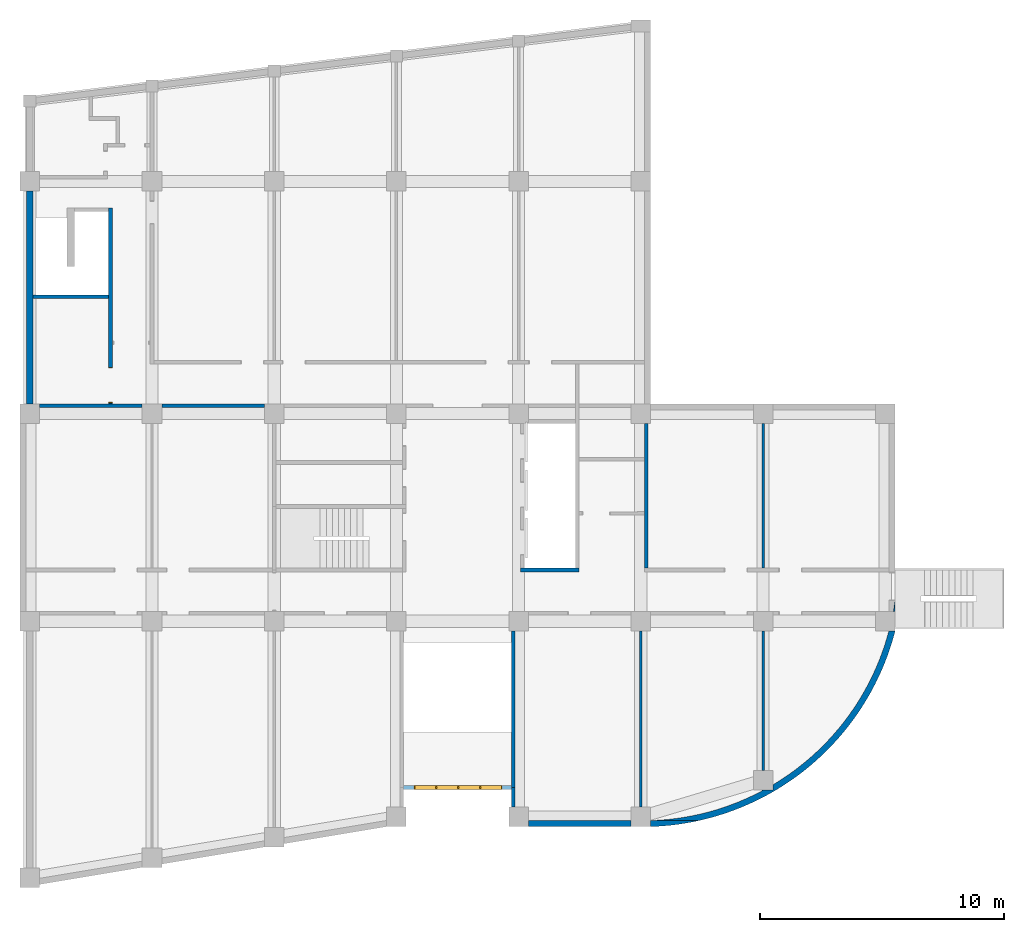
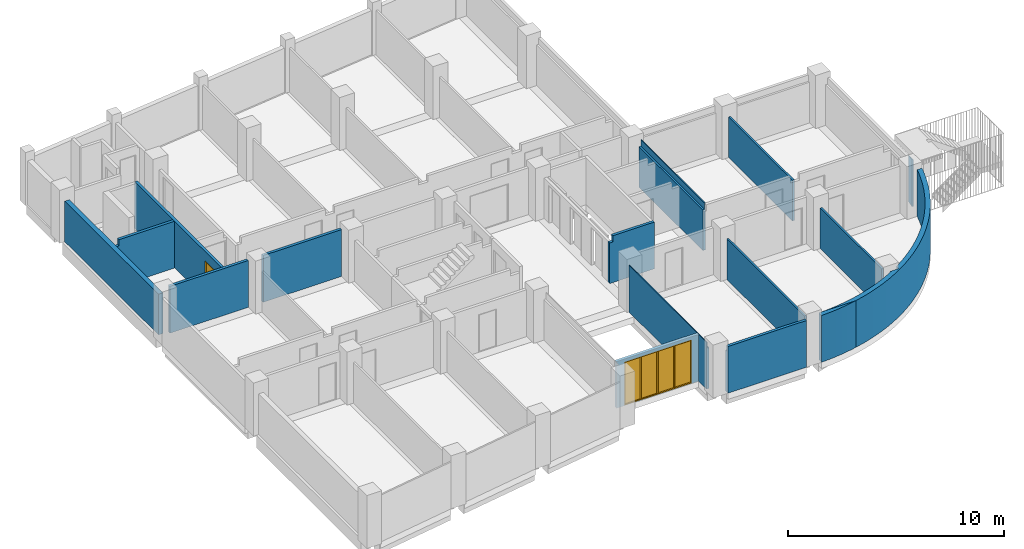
# One storey, part 5 of 7: 14 walls, 1 door, 1 window, 2 openings, plus 1 element that does not belong to this part.
"""IFC2X3 building model written with IfcOpenShell, lengths in millimetres."""

from ifc_helpers import new_model, entity, si_unit, converted_unit, derived_unit, money_unit, direction, frame, origin_with_axes, place, context, subcontext, project, spatial, open_shell, faceted_brep, surface_model, material, type_object, element, fill, save


model = new_model("IFC2X3")

# Units and contexts
model_context = context("Model", 3, precision=0.01, world=origin_with_axes(), true_north=direction((0.0, 1.0)))
body_context = subcontext(model_context, "Body", "Model", "MODEL_VIEW")
ifc_project = project(units=[si_unit("LENGTHUNIT", "METRE", prefix="MILLI"), si_unit("AREAUNIT", "SQUARE_METRE"), si_unit("VOLUMEUNIT", "CUBIC_METRE"), converted_unit("PLANEANGLEUNIT", "DEGREE", entity("IfcPlaneAngleMeasure", 0.0174532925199), si_unit("PLANEANGLEUNIT", "RADIAN"), dimensions=[0, 0, 0, 0, 0, 0, 0]), si_unit("SOLIDANGLEUNIT", "STERADIAN"), money_unit("JPY"), converted_unit("TIMEUNIT", "Year", entity("IfcTimeMeasure", 31556926.0), si_unit("TIMEUNIT", "SECOND"), dimensions=[0, 0, 1, 0, 0, 0, 0]), si_unit("MASSUNIT", "GRAM", prefix="KILO"), si_unit("THERMODYNAMICTEMPERATUREUNIT", "DEGREE_CELSIUS"), si_unit("LUMINOUSINTENSITYUNIT", "LUMEN"), si_unit("ENERGYUNIT", "JOULE", prefix="MEGA"), derived_unit("THERMALCONDUCTANCEUNIT", [(si_unit("POWERUNIT", "WATT"), 1), (si_unit("LENGTHUNIT", "METRE"), -1), (si_unit("THERMODYNAMICTEMPERATUREUNIT", "KELVIN"), -1)]), derived_unit("SPECIFICHEATCAPACITYUNIT", [(si_unit("ENERGYUNIT", "JOULE"), 1), (si_unit("MASSUNIT", "GRAM", prefix="KILO"), -1), (si_unit("THERMODYNAMICTEMPERATUREUNIT", "KELVIN"), -1)]), derived_unit("MASSDENSITYUNIT", [(si_unit("MASSUNIT", "GRAM", prefix="KILO"), 1), (si_unit("VOLUMEUNIT", "CUBIC_METRE"), -1)])], contexts=[model_context])

# Site, building, storey
site_placement = place(None, origin_with_axes())
site = spatial("IfcSite", under=ifc_project, at=site_placement, Name="サイト", CompositionType="ELEMENT")
building_placement = place(site_placement, origin_with_axes())
building = spatial("IfcBuilding", under=site, at=building_placement, Name="建築", CompositionType="ELEMENT")
storey_placement = place(building_placement, frame((0.0, 0.0, 3000.0), z_axis=(0.0, 0.0, 1.0), x_axis=(1.0, 0.0, 0.0)))
storey = spatial("IfcBuildingStorey", under=building, at=storey_placement, Name="2FL", CompositionType="ELEMENT", Elevation=3000.0)

# Walls
ifc_material_1 = material(Name="コンクリート")
wall_type_1 = type_object("IfcWallType", Name="コンクリート 150", PredefinedType="NOTDEFINED")
wall_1_placement = place(storey_placement, frame((19775.0000519, -6800.0, 0.0), z_axis=(0.0, 0.0, 1.0), x_axis=(0.0, -1.0, 0.0)))
element("IfcWall", 1, at=wall_1_placement, inside=storey, type_object=wall_type_1, material=ifc_material_1, Name="W5", context=body_context, shape_type="Brep", body=[
    faceted_brep([(0.0, -25.0000519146, 2300.0), (800.0, -25.0000519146, 2300.0), (800.0, 75.0, 2300.0), (0.0, 75.0, 2300.0), (0.0, -25.0000519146, 2650.0), (800.0, -25.0000519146, 2650.0), (800.0, -75.0, 0.0), (800.0, 75.0, 0.0), (800.0, -75.0, 2650.0), (0.0, 75.0, 0.0), (0.0, -75.0, 0.0), (0.0, -75.0, 2650.0)], [[[0, 1, 2, 3]], [[4, 5, 1, 0]], [[6, 7, 2, 1, 5, 8]], [[3, 2, 7, 9]], [[10, 11, 4, 0, 3, 9]], [[11, 8, 5, 4]], [[9, 7, 6, 10]], [[10, 6, 8, 11]]]),
])
wall_2_placement = place(storey_placement, frame((3300.0, 13282.5237799, 0.0), z_axis=(0.0, 0.0, 1.0), x_axis=(-1.0, 0.0, 0.0)))
element("IfcWall", 2, at=wall_2_placement, inside=storey, type_object=wall_type_1, material=ifc_material_1, Name="W9", context=body_context, shape_type="Brep", body=[
    faceted_brep([(3175.0, -75.0, 0.0), (3175.0, -75.0, 2300.0), (3050.0, -75.0, 2300.0), (3050.0, -75.0, 2650.0), (75.0, -75.0, 2650.0), (75.0, -75.0, 0.0), (3175.0, 75.0, 0.0), (3175.0, 75.0, 2300.0), (3050.0, 75.0, 2300.0), (3050.0, 75.0, 2650.0), (75.0, 75.0, 2650.0), (75.0, 75.0, 0.0)], [[[0, 1, 2, 3, 4, 5]], [[6, 7, 1, 0]], [[8, 2, 1, 7]], [[8, 9, 3, 2]], [[4, 3, 9, 10]], [[11, 5, 4, 10]], [[5, 11, 6, 0]], [[9, 8, 7, 6, 11, 10]]]),
])
wall_3_placement = place(storey_placement, frame((20150.0, 2100.0, 0.0), z_axis=(0.0, 0.0, 1.0), x_axis=(1.0, 0.0, 0.0)))
element("IfcWall", 3, at=wall_3_placement, inside=storey, type_object=wall_type_1, material=ifc_material_1, Name="W7", context=body_context, shape_type="Brep", body=[
    faceted_brep([(-75.0, 75.0, 0.0), (-75.0, 75.0, 2300.0), (100.0, 74.9999973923, 2300.0), (100.0, 75.0, 2650.0), (2325.0, 75.0, 2650.0), (2325.0, 75.0, 0.0), (-75.0, -75.0, 0.0), (-75.0, -75.0, 2300.0), (100.0, -75.0, 2300.0), (100.0, -75.0, 2650.0), (2325.0, -75.0, 2650.0), (2325.0, -75.0, 0.0)], [[[0, 1, 2, 3, 4, 5]], [[6, 7, 1, 0]], [[8, 2, 1, 7]], [[8, 9, 3, 2]], [[4, 3, 9, 10]], [[11, 5, 4, 10]], [[6, 0, 5, 11]], [[9, 8, 7, 6, 11, 10]]]),
])
wall_4_placement = place(storey_placement, frame((25224.9999795, 2100.0, 0.0), z_axis=(0.0, 0.0, 1.0), x_axis=(0.0, 1.0, 0.0)))
element("IfcWall", 4, at=wall_4_placement, inside=storey, type_object=wall_type_1, material=ifc_material_1, Name="W5", context=body_context, shape_type="Brep", body=[
    faceted_brep([(75.0, -75.0, 0.0), (6000.0, -75.0, 0.0), (6000.0, -75.0, 2650.0), (75.0, -75.0, 2650.0), (75.0, 75.0, 0.0), (6000.0, 75.0, 0.0), (6000.0, -25.0000205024, 2300.0), (6000.0, -25.0000205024, 2650.0), (6000.0, 75.0, 2300.0), (75.0, -25.0000205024, 2650.0), (75.0, -25.0000205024, 2300.0), (75.0, 75.0, 2300.0)], [[[0, 1, 2, 3]], [[4, 5, 1, 0]], [[6, 7, 2, 1, 5, 8]], [[3, 2, 7, 9]], [[3, 9, 10, 11, 4, 0]], [[11, 8, 5, 4]], [[9, 7, 6, 10]], [[10, 6, 8, 11]]]),
])
wall_5_placement = place(storey_placement, frame((19775.0000519, 325.000021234, 0.0), z_axis=(0.0, 0.0, 1.0), x_axis=(0.0, -1.0, 0.0)))
element("IfcWall", 5, at=wall_5_placement, inside=storey, type_object=wall_type_1, material=ifc_material_1, Name="W5", context=body_context, shape_type="Brep", body=[
    faceted_brep([(7125.00002123, 75.0, 0.0), (725.000021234, 75.0, 0.0), (725.000021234, 75.0, 2300.0), (7125.00002123, 75.0, 2300.0), (7125.00002123, -75.0, 0.0), (725.000021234, -75.0, 0.0), (725.000021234, -25.0000519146, 2650.0), (725.000021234, -25.0000519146, 2300.0), (725.000021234, -75.0, 2650.0), (7125.00002123, -25.0000519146, 2300.0), (7125.00002123, -25.0000519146, 2650.0), (7125.00002123, -75.0, 2650.0)], [[[0, 1, 2, 3]], [[4, 5, 1, 0]], [[6, 7, 2, 1, 5, 8]], [[3, 2, 7, 9]], [[0, 3, 9, 10, 11, 4]], [[11, 8, 5, 4]], [[9, 7, 6, 10]], [[10, 6, 8, 11]]]),
])

# Wall, opening, door
wall_6_placement = place(storey_placement, frame((3300.0, 8825.000045, 0.0), z_axis=(0.0, 0.0, 1.0), x_axis=(0.0, 1.0, 0.0)))
wall_6 = element("IfcWall", 6, at=wall_6_placement, inside=storey, type_object=wall_type_1, material=ifc_material_1, Name="W9", context=body_context, shape_type="Brep", body=[
    faceted_brep([(110.0, -75.0, 0.0), (110.0, -75.0, 2130.0), (1570.0, -75.0, 2130.0), (1570.0, -75.0, 0.0), (8082.52373485, -75.0, 0.0), (8082.52373485, -75.0, 2650.0), (75.0, -75.0, 2650.0), (75.0, -75.0, 0.0), (110.0, 75.0, 0.0), (110.0, 75.0, 2130.0), (1570.0, 75.0, 2130.0), (1570.0, 75.0, 0.0), (8082.52373485, 75.0, 0.0), (8082.52373485, 75.0, 2650.0), (75.0, 75.0, 2650.0), (75.0, 75.0, 0.0)], [[[0, 1, 2, 3, 4, 5, 6, 7]], [[1, 0, 8, 9]], [[2, 1, 9, 10]], [[3, 2, 10, 11]], [[3, 11, 12, 4]], [[13, 5, 4, 12]], [[6, 5, 13, 14]], [[6, 14, 15, 7]], [[8, 0, 7, 15]], [[9, 8, 15, 14, 13, 12, 11, 10]]]),
])
opening_1_placement = place(wall_6_placement, frame((840.0, 0.0, 0.0), z_axis=(0.0, 0.0, 1.0), x_axis=(1.0, 0.0, 0.0)))
opening_1 = element("IfcOpeningElement", 7, at=opening_1_placement, cuts=wall_6, Name="SD4", context=body_context, shape_type="Brep", body=[
    faceted_brep([(-730.0, -160.0, 0.0), (-730.0, -160.0, 2130.0), (-730.0, 160.0, 2130.0), (-730.0, 160.0, 0.0), (730.0, -160.0, 0.0), (730.0, -160.0, 2130.0), (730.0, 160.0, 2130.0), (730.0, 160.0, 0.0)], [[[0, 1, 2, 3]], [[0, 4, 5, 1]], [[1, 5, 6, 2]], [[3, 2, 6, 7]], [[4, 0, 3, 7]], [[5, 4, 7, 6]]]),
])
door_style = type_object("IfcDoorStyle", Name="両開き戸", ConstructionType="NOTDEFINED", OperationType="NOTDEFINED", ParameterTakesPrecedence=False, Sizeable=False)
door_placement = place(opening_1_placement, frame((-700.0, 0.0, 0.0), z_axis=(0.0, 0.0, 1.0), x_axis=(1.0, 0.0, 0.0)))
door = element("IfcDoor", 8, at=door_placement, inside=storey, type_object=door_style, Name="SD4", OverallHeight=2165.0, OverallWidth=1530.0, context=body_context, shape_type="SurfaceModel", body=[
    surface_model("IfcShellBasedSurfaceModel", [(700.0, 0.0, 0.0), (700.0, 0.0, 2100.0), (1400.0, 0.0, 2100.0), (1400.0, 0.0, 0.0)], [open_shell([[[0, 1, 2, 3]]])]),
    surface_model("IfcShellBasedSurfaceModel", [(700.0, 0.0, 0.0), (0.0, 0.0, 0.0), (0.0, 0.0, 2100.0), (700.0, 0.0, 2100.0)], [open_shell([[[0, 1, 2, 3]]])]),
    surface_model("IfcShellBasedSurfaceModel", [(-30.0, 75.0, 0.0), (-30.0, 75.0, 2130.0), (1430.0, 75.0, 2130.0), (1430.0, 75.0, 0.0), (1400.0, 75.0, 0.0), (1400.0, 75.0, 2100.0), (0.0, 75.0, 2100.0), (0.0, 75.0, 0.0)], [open_shell([[[0, 1, 2, 3, 4, 5, 6, 7]]])]),
    surface_model("IfcShellBasedSurfaceModel", [(-30.0, -75.0, 0.0), (-30.0, -75.0, 2130.0), (1430.0, -75.0, 2130.0), (1430.0, -75.0, 0.0), (1400.0, -75.0, 0.0), (1400.0, -75.0, 2100.0), (0.0, -75.0, 2100.0), (0.0, -75.0, 0.0)], [open_shell([[[0, 1, 2, 3, 4, 5, 6, 7]]])]),
    surface_model("IfcShellBasedSurfaceModel", [(0.0, 75.0, 0.0), (0.0, 75.0, 2100.0), (0.0, -75.0, 2100.0), (0.0, -75.0, 0.0), (1400.0, 75.0, 2100.0), (1400.0, -75.0, 2100.0), (-30.0, 75.0, 0.0), (-30.0, -75.0, 0.0), (1400.0, 75.0, 0.0), (1400.0, -75.0, 0.0), (-30.0, 75.0, 2130.0), (-30.0, -75.0, 2130.0), (1430.0, 75.0, 0.0), (1430.0, -75.0, 0.0), (1430.0, 75.0, 2130.0), (1430.0, -75.0, 2130.0)], [open_shell([[[0, 1, 2, 3]], [[1, 4, 5, 2]], [[6, 0, 3, 7]], [[4, 8, 9, 5]], [[10, 6, 7, 11]], [[8, 12, 13, 9]], [[14, 10, 11, 15]], [[12, 14, 15, 13]]])]),
])
fill(opening_1, door)

# Walls
for number, where, z_axis, x_axis, name in (
    (9, (10000.0, 8825.000045, 0.0), (0.0, 0.0, 1.0), (-1.0, 0.0, 0.0), "W9"),
    (10, (5000.0, 8825.000045, 0.0), (0.0, 0.0, 1.0), (-1.0, 0.0, 0.0), "W0"),
):
    element("IfcWall", number, at=place(storey_placement, frame(where, z_axis=z_axis, x_axis=x_axis)), inside=storey, type_object=wall_type_1, material=ifc_material_1, Name=name, context=body_context, shape_type="Brep", body=[
        faceted_brep([(4600.0, 75.0, 2650.0), (400.0, 75.0, 2650.0), (400.0, -74.999955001, 2650.0), (4600.0, -74.999955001, 2650.0), (4600.0, 75.0, 0.0), (400.0, 75.0, 0.0), (400.0, -74.999955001, 0.0), (4600.0, -74.999955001, 0.0)], [[[0, 1, 2, 3]], [[4, 5, 1, 0]], [[5, 6, 2, 1]], [[3, 2, 6, 7]], [[4, 0, 3, 7]], [[7, 6, 5, 4]]]),
    ])

# Wall, opening, window
wall_7_placement = place(storey_placement, frame((19775.0000519, -6800.0, 0.0), z_axis=(0.0, 0.0, 1.0), x_axis=(-1.0, 0.0, 0.0)))
wall_7 = element("IfcWall", 11, at=wall_7_placement, inside=storey, type_object=wall_type_1, material=ifc_material_1, Name="W6", context=body_context, shape_type="Brep", body=[
    faceted_brep([(75.0, 75.0, 0.0), (75.0, 75.0, 2650.0), (4475.0001044, 75.0, 2650.0), (4475.0001044, 75.0, 0.0), (4045.0000522, 75.0, 20.0), (4045.0000522, 75.0, 2480.0), (445.0000522, 75.0, 2480.0), (445.0000522, 75.0, 20.0), (75.0, 0.0, 0.0), (75.0, 0.0, 2650.0), (75.0, -75.0, 2650.0), (4475.0001044, -75.0, 2650.0), (4475.0001044, 0.0, 2650.0), (4475.0001044, 0.0, 0.0), (4475.0001044, -75.0, 0.0), (75.0, -75.0, 0.0), (4045.0000522, -75.0, 20.0), (4045.0000522, -75.0, 2480.0), (445.0000522, -75.0, 2480.0), (445.0000522, -75.0, 20.0)], [[[0, 1, 2, 3], [4, 5, 6, 7]], [[8, 9, 1, 0]], [[10, 11, 12, 2, 1, 9]], [[3, 2, 12, 13]], [[8, 0, 3, 13, 14, 15]], [[16, 17, 5, 4]], [[17, 18, 6, 5]], [[18, 19, 7, 6]], [[19, 16, 4, 7]], [[15, 10, 9, 8]], [[14, 11, 10, 15], [16, 19, 18, 17]], [[13, 12, 11, 14]]]),
])
opening_2_placement = place(wall_7_placement, frame((2245.0000522, 0.0, 50.0), z_axis=(0.0, 0.0, 1.0), x_axis=(1.0, 0.0, 0.0)))
opening_2 = element("IfcOpeningElement", 12, at=opening_2_placement, cuts=wall_7, Name="AW1", context=body_context, shape_type="Brep", body=[
    faceted_brep([(-1800.0, -195.0, -30.0), (-1800.0, -195.0, 2430.0), (-1800.0, 195.0, 2430.0), (-1800.0, 195.0, -30.0), (1800.0, -195.0, -30.0), (1800.0, -195.0, 2430.0), (1800.0, 195.0, 2430.0), (1800.0, 195.0, -30.0)], [[[0, 1, 2, 3]], [[0, 4, 5, 1]], [[1, 5, 6, 2]], [[3, 2, 6, 7]], [[4, 0, 3, 7]], [[5, 4, 7, 6]]]),
])
window_style = type_object("IfcWindowStyle", Name="連装窓1", ConstructionType="NOTDEFINED", OperationType="NOTDEFINED", ParameterTakesPrecedence=False, Sizeable=False)
window_placement = place(opening_2_placement, frame((-1770.0, 0.0, 0.0), z_axis=(0.0, 0.0, 1.0), x_axis=(1.0, 0.0, 0.0)))
window = element("IfcWindow", 13, at=window_placement, inside=storey, type_object=window_style, Name="AW1", OverallHeight=2550.0, OverallWidth=3660.0, context=body_context, shape_type="SurfaceModel", body=[
    surface_model("IfcShellBasedSurfaceModel", [(0.0, 0.0, 0.0), (0.0, 0.0, 2400.0), (832.5, 0.0, 2400.0), (832.5, 0.0, 0.0)], [open_shell([[[0, 1, 2, 3]]])]),
    surface_model("IfcShellBasedSurfaceModel", [(902.5, 0.0, 0.0), (902.5, 0.0, 2400.0), (1735.0, 0.0, 2400.0), (1735.0, 0.0, 0.0)], [open_shell([[[0, 1, 2, 3]]])]),
    surface_model("IfcShellBasedSurfaceModel", [(1805.0, 0.0, 0.0), (1805.0, 0.0, 2400.0), (2637.5, 0.0, 2400.0), (2637.5, 0.0, 0.0)], [open_shell([[[0, 1, 2, 3]]])]),
    surface_model("IfcShellBasedSurfaceModel", [(2707.5, 0.0, 0.0), (2707.5, 0.0, 2400.0), (3540.0, 0.0, 2400.0), (3540.0, 0.0, 0.0)], [open_shell([[[0, 1, 2, 3]]])]),
    faceted_brep([(832.5, -35.0, 0.0), (902.5, -35.0, 0.0), (902.5, -35.0, 2400.0), (832.5, -35.0, 2400.0), (832.5, 35.0, 0.0), (902.5, 35.0, 0.0), (902.5, 35.0, 2400.0), (832.5, 35.0, 2400.0)], [[[0, 1, 2, 3]], [[0, 4, 5, 1]], [[1, 5, 6, 2]], [[3, 2, 6, 7]], [[4, 0, 3, 7]], [[5, 4, 7, 6]]]),
    faceted_brep([(1735.0, -35.0, 0.0), (1805.0, -35.0, 0.0), (1805.0, -35.0, 2400.0), (1735.0, -35.0, 2400.0), (1735.0, 35.0, 0.0), (1805.0, 35.0, 0.0), (1805.0, 35.0, 2400.0), (1735.0, 35.0, 2400.0)], [[[0, 1, 2, 3]], [[0, 4, 5, 1]], [[1, 5, 6, 2]], [[3, 2, 6, 7]], [[4, 0, 3, 7]], [[5, 4, 7, 6]]]),
    faceted_brep([(2637.5, -35.0, 0.0), (2707.5, -35.0, 0.0), (2707.5, -35.0, 2400.0), (2637.5, -35.0, 2400.0), (2637.5, 35.0, 0.0), (2707.5, 35.0, 0.0), (2707.5, 35.0, 2400.0), (2637.5, 35.0, 2400.0)], [[[0, 1, 2, 3]], [[0, 4, 5, 1]], [[1, 5, 6, 2]], [[3, 2, 6, 7]], [[4, 0, 3, 7]], [[5, 4, 7, 6]]]),
    faceted_brep([(-30.0, 75.0, -30.0), (3570.0, 75.0, -30.0), (3570.0, -75.0, -30.0), (-30.0, -75.0, -30.0), (-30.0, 75.0, 2430.0), (3570.0, 75.0, 2430.0), (0.0, 75.0, 0.0), (3540.0, 75.0, 0.0), (3540.0, 75.0, 2400.0), (0.0, 75.0, 2400.0), (3570.0, -75.0, 2430.0), (-30.0, -75.0, 2430.0), (0.0, -75.0, 0.0), (0.0, -75.0, 2400.0), (3540.0, -75.0, 2400.0), (3540.0, -75.0, 0.0)], [[[0, 1, 2, 3]], [[0, 4, 5, 1], [6, 7, 8, 9]], [[1, 5, 10, 2]], [[3, 2, 10, 11], [12, 13, 14, 15]], [[4, 0, 3, 11]], [[5, 4, 11, 10]], [[7, 6, 12, 15]], [[8, 7, 15, 14]], [[9, 8, 14, 13]], [[6, 9, 13, 12]]]),
])
fill(opening_2, window)

# Walls
wall_type_2 = type_object("IfcWallType", Name="コンクリート 250", PredefinedType="NOTDEFINED")
wall_8_placement = place(storey_placement, frame((25400.0, -8275.0, 0.0), z_axis=(0.0, 0.0, 1.0), x_axis=(0.999496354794, 0.0317338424, 0.0)))
element("IfcWall", 14, at=wall_8_placement, inside=storey, type_object=wall_type_2, material=ifc_material_1, Name="W8", context=body_context, shape_type="Brep", body=[
    faceted_brep([(10284.5014084, 8802.01330936, 0.0), (10284.5014084, 8802.01330936, 2130.0), (10285.0995454, 8820.8523684, 2130.0), (10285.0995498, 8820.85236826, 2650.0), (10270.2546308, 8353.29245384, 2650.0), (10270.2546308, 8353.29245384, 0.0), (10273.9443723, 8469.50648724, 0.0), (10284.2870024, 8795.26032687, 0.0), (10282.1865911, 8802.08680443, 0.0), (10282.1865954, 8802.08680429, 2130.0), (10281.2086562, 8795.7868435, 0.0), (10281.2086562, 8795.7868435, 2650.0), (10222.1798154, 8480.01043594, 2650.0), (10194.9517541, 8355.6833076, 2650.0), (10194.9517541, 8355.6833076, 0.0), (10222.1798154, 8480.01043594, 0.0)], [[[0, 1, 2, 3, 4, 5, 6, 7]], [[1, 0, 8, 9]], [[9, 2, 1]], [[9, 8, 10, 11, 3, 2]], [[11, 12, 13, 4, 3]], [[13, 14, 5, 4]], [[15, 6, 5, 14]], [[15, 10, 7, 6]], [[8, 0, 7, 10]], [[12, 11, 10, 15]], [[12, 15, 14, 13]]]),
    faceted_brep([(10244.3744035, 7538.16398783, 0.0), (10244.8675568, 7553.69537, 0.0), (10244.8675568, 7553.69537, 2650.0), (10244.3744035, 7538.16398783, 2650.0), (10239.7863296, 7522.17161236, 0.0), (10119.9304779, 7557.6621014, 0.0), (9991.54601196, 7561.73828676, 0.0), (9991.54601196, 7561.73828676, 2650.0), (9987.18504829, 7545.67511017, 2650.0), (9889.79839304, 7239.54608019, 2650.0), (9783.03066497, 6936.56126892, 2650.0), (9666.98313971, 6637.00807582, 2650.0), (9541.76589539, 6341.17064523, 2650.0), (9407.49770815, 6049.32959686, 2650.0), (9264.30593948, 5761.76175965, 2650.0), (9112.32641546, 5478.73990909, 2650.0), (8951.70329787, 5200.53250855, 2650.0), (8782.58894747, 4927.40345462, 2650.0), (8605.14377946, 4659.61182673, 2650.0), (8419.53611134, 4397.41164147, 2650.0), (8225.94200321, 4141.0516116, 2650.0), (8024.54509083, 3890.77491013, 2650.0), (7815.53641135, 3646.81893968, 2650.0), (7599.11422217, 3409.41510726, 2650.0), (7375.48381285, 3178.78860479, 2650.0), (7144.85731038, 2955.15819547, 2650.0), (6907.45347796, 2738.73600629, 2650.0), (6663.49750751, 2529.72732681, 2650.0), (6413.22080604, 2328.33041443, 2650.0), (6156.86077617, 2134.7363063, 2650.0), (5894.66059091, 1949.12863818, 2650.0), (5626.86896302, 1771.68347017, 2650.0), (5353.73990909, 1602.56911977, 2650.0), (5075.53250855, 1441.94600218, 2650.0), (5047.82870941, 1427.06937623, 2650.0), (5041.11580727, 1215.63827584, 2650.0), (4667.08834177, 1227.51358543, 2650.0), (4504.94282078, 1146.77470949, 2650.0), (4213.10177241, 1012.50652224, 2650.0), (3917.26434182, 887.289277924, 2650.0), (3617.71114872, 771.241752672, 2650.0), (3314.72633745, 664.474024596, 2650.0), (3008.59730747, 567.087369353, 2650.0), (2699.6144407, 479.174164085, 2650.0), (2388.07082612, 400.817799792, 2650.0), (2074.2619817, 332.092602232, 2650.0), (1758.48557414, 273.063761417, 2650.0), (1441.0411365, 223.78726978, 2650.0), (1122.22978406, 184.309869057, 2650.0), (802.353928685, 154.669005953, 2650.0), (481.71699201, 134.892796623, 2650.0), (160.623117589, 125.0, 2650.0), (3.96872913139, 125.0, 2650.0), (3.96673029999, 124.937044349, 2650.0), (1989.40539738, 61.8996981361, 2650.0), (2123.98409793, 87.0568172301, 2650.0), (2445.31525148, 157.429425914, 2650.0), (2764.32687539, 237.664069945, 2650.0), (3080.71636782, 327.684641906, 2650.0), (3394.18361416, 427.405751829, 2650.0), (3704.43127175, 536.732808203, 2650.0), (4011.16505188, 655.562107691, 2650.0), (4314.093999, 783.780933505, 2650.0), (4612.93076664, 921.267662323, 2650.0), (4907.39189002, 1067.89187965, 2650.0), (5197.19805494, 1223.51450355, 2650.0), (5482.0743627, 1387.98791651, 2650.0), (5761.75059085, 1561.15610556, 2650.0), (6035.96144956, 1742.85481018, 2650.0), (6304.44683322, 1932.91167813, 2650.0), (6566.95206718, 2131.14642896, 2650.0), (6823.22814932, 2337.37102501, 2650.0), (7073.03198625, 2551.38984976, 2650.0), (7316.12662391, 2772.99989339, 2650.0), (7552.2814723, 3001.99094534, 2650.0), (7781.27252425, 3238.14579373, 2650.0), (8002.88256788, 3481.24043139, 2650.0), (8216.90139262, 3731.04426832, 2650.0), (8423.12598868, 3987.32035046, 2650.0), (8621.36073951, 4249.82558442, 2650.0), (8811.41760746, 4518.31096808, 2650.0), (8993.11631208, 4792.52182679, 2650.0), (9166.28450113, 5072.19805494, 2650.0), (9330.75791409, 5357.0743627, 2650.0), (9486.38053799, 5646.88052762, 2650.0), (9633.00475532, 5941.341651, 2650.0), (9770.49148413, 6240.17841864, 2650.0), (9898.71030995, 6543.10736576, 2650.0), (10017.5396094, 6849.84114589, 2650.0), (10126.8666658, 7160.08880348, 2650.0), (10226.5877757, 7473.55604982, 2650.0), (10239.7863296, 7522.17161236, 2650.0), (9987.18504829, 7545.67511017, 0.0), (10226.5877757, 7473.55604982, 0.0), (9889.79839304, 7239.54608019, 0.0), (9783.03066497, 6936.56126892, 0.0), (9666.98313971, 6637.00807582, 0.0), (9541.76589539, 6341.17064523, 0.0), (9407.49770815, 6049.32959686, 0.0), (9264.30593948, 5761.76175965, 0.0), (9112.32641546, 5478.73990909, 0.0), (8951.70329787, 5200.53250855, 0.0), (8782.58894747, 4927.40345462, 0.0), (8605.14377946, 4659.61182673, 0.0), (8419.53611134, 4397.41164147, 0.0), (8225.94200321, 4141.0516116, 0.0), (8024.54509083, 3890.77491013, 0.0), (7815.53641135, 3646.81893968, 0.0), (7599.11422217, 3409.41510726, 0.0), (7375.48381285, 3178.78860479, 0.0), (7144.85731038, 2955.15819547, 0.0), (6907.45347796, 2738.73600629, 0.0), (6663.49750751, 2529.72732681, 0.0), (6413.22080604, 2328.33041443, 0.0), (6156.86077617, 2134.7363063, 0.0), (5894.66059091, 1949.12863818, 0.0), (5626.86896302, 1771.68347017, 0.0), (5353.73990909, 1602.56911977, 0.0), (5075.53250855, 1441.94600218, 0.0), (5047.82870941, 1427.06937623, 0.0), (5041.11580727, 1215.63827584, 0.0), (4667.08834177, 1227.51358543, 0.0), (4827.45200358, 1222.42206594, 0.0), (4504.94282078, 1146.77470949, 0.0), (4213.10177241, 1012.50652224, 0.0), (3917.26434182, 887.289277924, 0.0), (3617.71114872, 771.241752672, 0.0), (3314.72633745, 664.474024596, 0.0), (3008.59730747, 567.087369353, 0.0), (2699.6144407, 479.174164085, 0.0), (2388.07082612, 400.817799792, 0.0), (2074.2619817, 332.092602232, 0.0), (1758.48557414, 273.063761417, 0.0), (1441.0411365, 223.78726978, 0.0), (1122.22978406, 184.309869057, 0.0), (802.353928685, 154.669005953, 0.0), (481.71699201, 134.892796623, 0.0), (160.623117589, 125.0, 0.0), (3.96872913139, 125.0, 0.0), (3.96673029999, 124.937044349, 0.0), (160.700727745, 119.960766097, 0.0), (482.880263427, 109.731619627, 0.0), (806.613963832, 99.4531286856, 0.0), (1132.53275726, 89.1052614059, 0.0), (1461.284487, 78.6674488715, 0.0), (1793.53917943, 68.1184178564, 0.0), (1989.40539738, 61.8996981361, 0.0), (2123.98409793, 87.0568172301, 0.0), (2445.31525148, 157.429425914, 0.0), (2764.32687539, 237.664069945, 0.0), (3080.71636782, 327.684641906, 0.0), (3394.18361416, 427.405751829, 0.0), (3704.43127175, 536.732808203, 0.0), (4011.16505188, 655.562107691, 0.0), (4314.093999, 783.780933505, 0.0), (4612.93076664, 921.267662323, 0.0), (4907.39189002, 1067.89187965, 0.0), (5197.19805494, 1223.51450355, 0.0), (5482.0743627, 1387.98791651, 0.0), (5761.75059085, 1561.15610556, 0.0), (6035.96144956, 1742.85481018, 0.0), (6304.44683322, 1932.91167813, 0.0), (6566.95206718, 2131.14642896, 0.0), (6823.22814932, 2337.37102501, 0.0), (7073.03198625, 2551.38984976, 0.0), (7316.12662391, 2772.99989339, 0.0), (7552.2814723, 3001.99094534, 0.0), (7781.27252425, 3238.14579373, 0.0), (8002.88256788, 3481.24043139, 0.0), (8216.90139262, 3731.04426832, 0.0), (8423.12598868, 3987.32035046, 0.0), (8621.36073951, 4249.82558442, 0.0), (8811.41760746, 4518.31096808, 0.0), (8993.11631208, 4792.52182679, 0.0), (9166.28450113, 5072.19805494, 0.0), (9330.75791409, 5357.0743627, 0.0), (9486.38053799, 5646.88052762, 0.0), (9633.00475532, 5941.341651, 0.0), (9770.49148413, 6240.17841864, 0.0), (9898.71030995, 6543.10736576, 0.0), (10017.5396094, 6849.84114589, 0.0), (10126.8666658, 7160.08880348, 0.0)], [[[0, 1, 2, 3]], [[4, 5, 1, 0]], [[6, 7, 2, 1, 5]], [[3, 2, 7, 8, 9, 10, 11, 12, 13, 14, 15, 16, 17, 18, 19, 20, 21, 22, 23, 24, 25, 26, 27, 28, 29, 30, 31, 32, 33, 34, 35, 36, 37, 38, 39, 40, 41, 42, 43, 44, 45, 46, 47, 48, 49, 50, 51, 52, 53, 54, 55, 56, 57, 58, 59, 60, 61, 62, 63, 64, 65, 66, 67, 68, 69, 70, 71, 72, 73, 74, 75, 76, 77, 78, 79, 80, 81, 82, 83, 84, 85, 86, 87, 88, 89, 90, 91]], [[91, 4, 0, 3]], [[92, 6, 5, 4, 93]], [[8, 7, 6, 92]], [[8, 92, 94, 9]], [[9, 94, 95, 10]], [[10, 95, 96, 11]], [[11, 96, 97, 12]], [[12, 97, 98, 13]], [[13, 98, 99, 14]], [[14, 99, 100, 15]], [[15, 100, 101, 16]], [[16, 101, 102, 17]], [[17, 102, 103, 18]], [[18, 103, 104, 19]], [[19, 104, 105, 20]], [[20, 105, 106, 21]], [[21, 106, 107, 22]], [[22, 107, 108, 23]], [[23, 108, 109, 24]], [[24, 109, 110, 25]], [[25, 110, 111, 26]], [[26, 111, 112, 27]], [[27, 112, 113, 28]], [[28, 113, 114, 29]], [[29, 114, 115, 30]], [[30, 115, 116, 31]], [[31, 116, 117, 32]], [[32, 117, 118, 33]], [[118, 119, 34, 33]], [[120, 35, 34, 119]], [[121, 36, 35, 120, 122]], [[37, 36, 121, 123]], [[37, 123, 124, 38]], [[38, 124, 125, 39]], [[39, 125, 126, 40]], [[40, 126, 127, 41]], [[41, 127, 128, 42]], [[42, 128, 129, 43]], [[43, 129, 130, 44]], [[44, 130, 131, 45]], [[45, 131, 132, 46]], [[46, 132, 133, 47]], [[47, 133, 134, 48]], [[48, 134, 135, 49]], [[49, 135, 136, 50]], [[50, 136, 137, 51]], [[137, 138, 52, 51]], [[139, 53, 52, 138]], [[54, 53, 139, 140, 141, 142, 143, 144, 145, 146]], [[54, 146, 147, 55]], [[55, 147, 148, 56]], [[56, 148, 149, 57]], [[57, 149, 150, 58]], [[58, 150, 151, 59]], [[59, 151, 152, 60]], [[60, 152, 153, 61]], [[61, 153, 154, 62]], [[62, 154, 155, 63]], [[63, 155, 156, 64]], [[64, 156, 157, 65]], [[65, 157, 158, 66]], [[66, 158, 159, 67]], [[67, 159, 160, 68]], [[68, 160, 161, 69]], [[69, 161, 162, 70]], [[70, 162, 163, 71]], [[71, 163, 164, 72]], [[72, 164, 165, 73]], [[73, 165, 166, 74]], [[74, 166, 167, 75]], [[75, 167, 168, 76]], [[76, 168, 169, 77]], [[77, 169, 170, 78]], [[78, 170, 171, 79]], [[79, 171, 172, 80]], [[80, 172, 173, 81]], [[81, 173, 174, 82]], [[82, 174, 175, 83]], [[83, 175, 176, 84]], [[84, 176, 177, 85]], [[85, 177, 178, 86]], [[86, 178, 179, 87]], [[87, 179, 180, 88]], [[88, 180, 181, 89]], [[89, 181, 93, 90]], [[90, 93, 4, 91]], [[181, 94, 92, 93]], [[180, 95, 94, 181]], [[179, 96, 95, 180]], [[178, 97, 96, 179]], [[177, 98, 97, 178]], [[176, 99, 98, 177]], [[175, 100, 99, 176]], [[174, 101, 100, 175]], [[173, 102, 101, 174]], [[172, 103, 102, 173]], [[171, 104, 103, 172]], [[170, 105, 104, 171]], [[169, 106, 105, 170]], [[168, 107, 106, 169]], [[167, 108, 107, 168]], [[166, 109, 108, 167]], [[165, 110, 109, 166]], [[164, 111, 110, 165]], [[163, 112, 111, 164]], [[162, 113, 112, 163]], [[161, 114, 113, 162]], [[160, 115, 114, 161]], [[159, 116, 115, 160]], [[158, 117, 116, 159]], [[157, 118, 117, 158]], [[122, 120, 119, 118, 157, 156]], [[123, 121, 122, 156, 155]], [[154, 124, 123, 155]], [[153, 125, 124, 154]], [[152, 126, 125, 153]], [[151, 127, 126, 152]], [[150, 128, 127, 151]], [[149, 129, 128, 150]], [[148, 130, 129, 149]], [[147, 131, 130, 148]], [[145, 132, 131, 147, 146]], [[145, 144, 133, 132]], [[144, 143, 134, 133]], [[143, 142, 135, 134]], [[142, 141, 136, 135]], [[141, 140, 137, 136]], [[140, 139, 138, 137]]]),
])
wall_9_placement = place(storey_placement, frame((19775.0000519, -8275.0, 0.0), z_axis=(0.0, 0.0, 1.0), x_axis=(1.0, 0.0, 0.0)))
element("IfcWall", 15, at=wall_9_placement, inside=storey, type_object=wall_type_2, material=ifc_material_1, Name="W4", context=body_context, shape_type="Brep", body=[
    faceted_brep([(4824.99994809, 125.0, 0.0), (624.999948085, 125.0, 0.0), (624.999948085, 125.0, 2300.0), (4824.99994809, 125.0, 2300.0), (4824.99994809, -125.0, 0.0), (624.999948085, -125.0, 0.0), (624.999948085, 25.0, 2650.0), (624.999948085, 24.9999994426, 2300.0), (624.999948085, -125.0, 2650.0), (4824.99994809, 24.9999958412, 2300.0), (4824.99994809, 25.0, 2650.0), (4824.99994809, -125.0, 2650.0)], [[[0, 1, 2, 3]], [[4, 5, 1, 0]], [[6, 7, 2, 1, 5, 8]], [[3, 2, 7, 9]], [[4, 0, 3, 9, 10, 11]], [[11, 8, 5, 4]], [[9, 7, 6, 10]], [[10, 6, 8, 11]]]),
    faceted_brep([(7611.43907571, 125.0, 0.0), (5624.99994809, 125.0, 0.0), (5624.99994809, 125.0, 2650.0), (7611.43907571, 125.0, 2650.0), (5626.98381282, -125.0, 0.0), (5624.99994809, -125.0, 0.0), (7423.88674945, 83.7407624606, 0.0), (7100.59778238, 22.9932681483, 0.0), (6775.59142226, -27.7697121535, 0.0), (6449.17595729, -68.5000266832, 0.0), (6121.66101231, -99.1590402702, 0.0), (5793.35725511, -119.717670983, 0.0), (5628.96667839, -124.937044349, 0.0), (5624.99994809, -125.0, 2650.0), (5626.98381282, -125.0, 2650.0), (5628.96667839, -124.937044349, 2650.0), (5793.35725511, -119.717670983, 2650.0), (6121.66101231, -99.1590402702, 2650.0), (6449.17595729, -68.5000266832, 2650.0), (6775.59142226, -27.7697121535, 2650.0), (7100.59778238, 22.9932681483, 2650.0), (7423.88674945, 83.7407624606, 2650.0)], [[[0, 1, 2, 3]], [[4, 5, 1, 0, 6, 7, 8, 9, 10, 11, 12]], [[5, 13, 2, 1]], [[3, 2, 13, 14, 15, 16, 17, 18, 19, 20, 21]], [[21, 6, 0, 3]], [[14, 13, 5, 4]], [[20, 7, 6, 21]], [[19, 8, 7, 20]], [[18, 9, 8, 19]], [[17, 10, 9, 18]], [[16, 11, 10, 17]], [[15, 12, 11, 16]], [[14, 4, 12, 15]]]),
])
wall_10_placement = place(storey_placement, frame((0.0, 18000.0, 0.0), z_axis=(0.0, 0.0, 1.0), x_axis=(0.0, -1.0, 0.0)))
element("IfcWall", 16, at=wall_10_placement, inside=storey, type_object=wall_type_2, material=ifc_material_1, Name="W0", context=body_context, shape_type="Brep", body=[
    faceted_brep([(9099.999955, 125.0, 0.0), (400.0, 125.0, 0.0), (400.0, 125.0, 2300.0), (9099.999955, 125.0, 2300.0), (9099.999955, -125.0, 0.0), (400.0, -125.0, 0.0), (400.0, -125.0, 2300.0), (9099.999955, -125.0, 2300.0)], [[[0, 1, 2, 3]], [[4, 5, 1, 0]], [[5, 6, 2, 1]], [[3, 2, 6, 7]], [[4, 0, 3, 7]], [[7, 6, 5, 4]]]),
])
ifc_material_2 = material(Name="石膏ボード")
wall_type_3 = type_object("IfcWallType", Name="石膏ボード 100", PredefinedType="NOTDEFINED")
wall_11_placement = place(storey_placement, frame((30000.0, 2100.0, 0.0), z_axis=(0.0, 0.0, 1.0), x_axis=(0.0, 1.0, 0.0)))
element("IfcWall", 17, at=wall_11_placement, inside=storey, type_object=wall_type_3, material=ifc_material_2, Name="W15", context=body_context, shape_type="Brep", body=[
    faceted_brep([(75.0, -50.0, 0.0), (6000.0, -50.0, 0.0), (6000.0, -50.0, 2300.0), (75.0, -50.0, 2300.0), (75.0, 50.0, 0.0), (6000.0, 50.0, 0.0), (6000.0, 50.0, 2300.0), (75.0, 50.0, 2300.0)], [[[0, 1, 2, 3]], [[4, 5, 1, 0]], [[5, 6, 2, 1]], [[3, 2, 6, 7]], [[4, 0, 3, 7]], [[7, 6, 5, 4]]]),
])
wall_12_placement = place(storey_placement, frame((30000.0, 325.000021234, 0.0), z_axis=(0.0, 0.0, 1.0), x_axis=(0.0, -1.0, 0.0)))
element("IfcWall", 18, at=wall_12_placement, inside=storey, type_object=wall_type_3, material=ifc_material_2, Name="W16", context=body_context, shape_type="Brep", body=[
    faceted_brep([(7265.78695439, -50.0, 0.0), (7225.00002123, 25.7840624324, 0.0), (7225.00002123, 25.7840624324, 2650.0), (7265.78695439, -50.0, 2650.0), (7225.00002123, -50.0, 0.0), (7225.00002123, -50.0, 2650.0)], [[[0, 1, 2, 3]], [[0, 4, 1]], [[4, 5, 2, 1]], [[3, 2, 5]], [[3, 5, 4, 0]]]),
    faceted_brep([(6425.00002123, 50.0, 0.0), (725.000021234, 50.0, 0.0), (725.000021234, 50.0, 2300.0), (6425.00002123, 50.0, 2300.0), (6425.00002123, -50.0, 0.0), (725.000021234, -50.0, 0.0), (725.000021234, -50.0, 2300.0), (6425.00002123, -50.0, 2300.0)], [[[0, 1, 2, 3]], [[4, 5, 1, 0]], [[5, 6, 2, 1]], [[3, 2, 6, 7]], [[4, 0, 3, 7]], [[7, 6, 5, 4]]]),
])
wall_13_placement = place(storey_placement, frame((25000.0, -8275.0, 0.0), z_axis=(0.0, 0.0, 1.0), x_axis=(0.0, 1.0, 0.0)))
element("IfcWall", 19, at=wall_13_placement, inside=storey, type_object=wall_type_3, material=ifc_material_2, Name="W17", context=body_context, shape_type="Brep", body=[
    faceted_brep([(675.0, -50.0, 0.0), (7875.0, -50.0, 0.0), (7875.0, -50.0, 2300.0), (675.0, -50.0, 2300.0), (675.0, 50.0, 0.0), (7875.0, 50.0, 0.0), (7875.0, 50.0, 2300.0), (675.0, 50.0, 2300.0)], [[[0, 1, 2, 3]], [[4, 5, 1, 0]], [[5, 6, 2, 1]], [[3, 2, 6, 7]], [[4, 0, 3, 7]], [[7, 6, 5, 4]]]),
])

save(model, "model.ifc")
